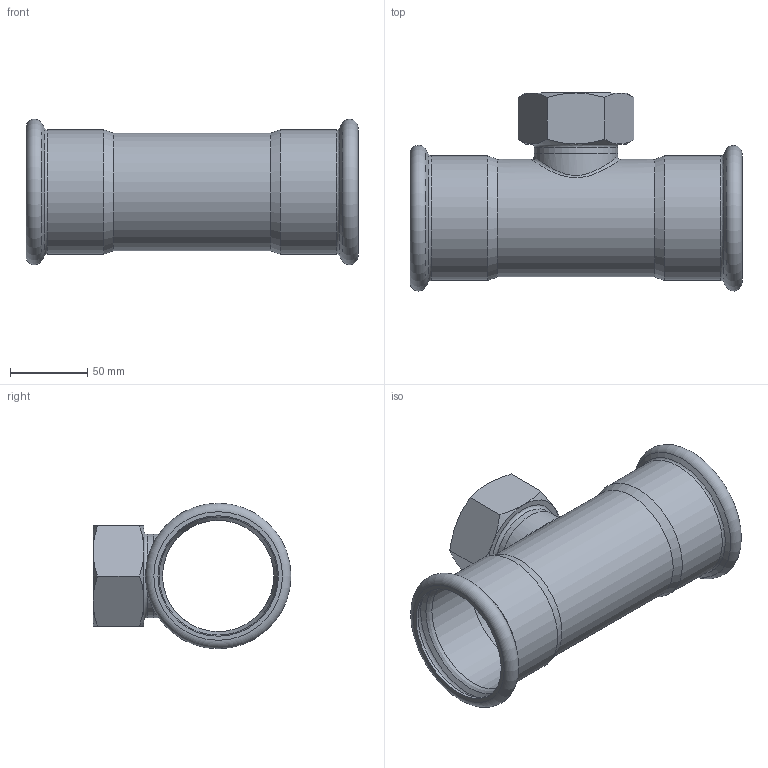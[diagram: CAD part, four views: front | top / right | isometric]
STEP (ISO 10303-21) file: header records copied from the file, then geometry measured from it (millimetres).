
FILE_DESCRIPTION((''),'2;1');
FILE_NAME('G:\Nirosan-Schmiedefeld\Technics\CAD\Bauteile VA\076\69130g76276(3).stp','2009-03-25T15:24:24',('herberg'),(''),'Autodesk Inventor 2009','Autodesk Inventor 2009','');
FILE_SCHEMA(('AUTOMOTIVE_DESIGN { 1 0 10303 214 1 1 1 1 }'));
Length unit declared in the file: millimetre
Products named in the file (3): 69130g76276(3); LM_69130765476(0); IG542(1)
Assembly tree (2 placements, depth 2):
  69130g76276(3)
    LM_69130765476(0)
    IG542(1)
Bounding box: 215 x 128.2 x 94.3 mm (x, y, z)
Volume: 151738.8 mm3; surface area: 130502.3 mm2
Topology: 2 solids, 2 shells, 60 faces, 125 edges, 73 vertices
Faces by surface type: cone 21, plane 14, cylinder 11, bspline 10, torus 4
Full cylindrical faces by diameter (mm): 50 x1, 54 x2, 72.1 x1, 76.1 x1, 76.6 x2, 78 x2, 80.6 x2
Entity records: 3396 total; most frequent: CARTESIAN_POINT 2289, DIRECTION 218, ORIENTED_EDGE 172, AXIS2_PLACEMENT_3D 106, EDGE_LOOP 102, EDGE_CURVE 86, VERTEX_POINT 66, FACE_OUTER_BOUND 60
